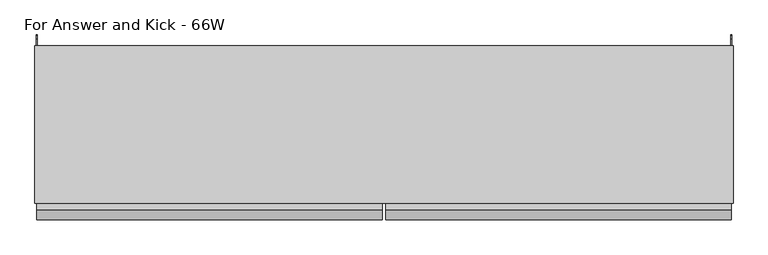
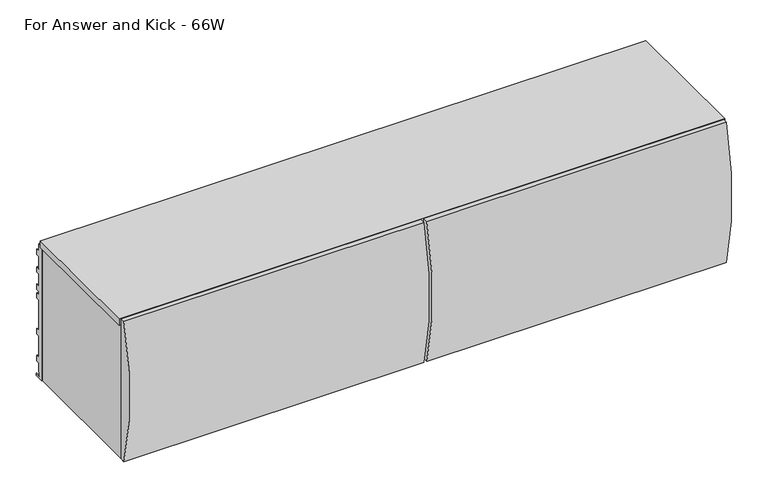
"""IFC4 building model written with IfcOpenShell, lengths in millimetres: furniture geometry, Steelcase - Universal Storage - Over the Case Bin - Radius Front : For Answer and Kick - 66W."""

from ifc_helpers import new_model, si_unit, point, frame, frame_2d, origin, place, context, project, spatial, polyline, circle_curve, trimmed, segment, composite_curve, outline, extrude, source, transform, mapped, element, save


def for_answer_and_kick_66w_54af6ecc(model_context):
    return source(origin(), model_context, "Body", "SweptSolid", [
        extrude(outline(polyline([(0.0, 1657.096), (15.428165, 1657.096), (15.428165, 1635.9725192), (24.6737648, 1635.9725192), (24.6737648, 1620.2499324), (17.7141651, 1620.2499324), (17.7141651, 1627.4034202), (15.428165, 1627.4034202), (13.3707653, 1623.8398995), (13.3707653, 1584.7332049), (24.4959651, 1584.7332049), (24.4959651, 1569.0106181), (17.7141651, 1569.0106181), (17.7141651, 1576.1734076), (15.428165, 1576.1734076), (13.3707653, 1572.6099624), (13.3707653, 1533.4938907), (24.6737648, 1533.4938907), (24.6737648, 1517.7713038), (17.5768, 1517.7713038), (17.5768, 1524.9340934), (15.4248855, 1524.9340934), (13.3349998, 1521.3219111), (13.3349998, 1508.4166423), (24.6737648, 1508.4166423), (24.6737648, 1492.6940555), (17.5768, 1492.6940555), (17.5768, 1499.856845), (15.4205129, 1499.856845), (13.3933344, 1496.3530466), (13.3933344, 1483.6530466), (15.428165, 1479.2893385), (15.428165, 1403.8551467), (24.6737648, 1403.8551467), (24.6737648, 1388.1325599), (17.7141651, 1388.1325599), (17.7141651, 1395.2982562), (15.428165, 1395.2982562), (13.3306079, 1391.6651808), (13.3306079, 1353.5651808), (15.428165, 1349.9321054), (15.428165, 1325.1000701), (24.6737648, 1325.1000701), (24.6737648, 1309.3774833), (17.7141651, 1309.3774833), (17.7141651, 1316.5328605), (15.428165, 1316.5328605), (15.428165, 1303.5355433), (13.2046809, 1299.684356), (13.2046809, 1282.9679719), (11.2879653, 1282.9679719), (11.2879653, 1271.9303504), (26.4009645, 1271.9303504), (26.4009645, 1265.428), (0.0, 1265.428), (0.0, 1657.096)])), frame((1670.8882, 0.0, 0.0), z_axis=(1.0, 0.0, 0.0), x_axis=(0.0, 1.0, 0.0)), (0.0, 0.0, 1.0), 1.905),
        extrude(outline(polyline([(0.0, 1657.096), (15.428165, 1657.096), (15.428165, 1635.9725192), (24.6737648, 1635.9725192), (24.6737648, 1620.2499324), (17.7141651, 1620.2499324), (17.7141651, 1627.4034202), (15.428165, 1627.4034202), (13.3707653, 1623.8398995), (13.3707653, 1584.7332049), (24.4959651, 1584.7332049), (24.4959651, 1569.0106181), (17.7141651, 1569.0106181), (17.7141651, 1576.1734076), (15.428165, 1576.1734076), (13.3707653, 1572.6099624), (13.3707653, 1533.4938907), (24.6737648, 1533.4938907), (24.6737648, 1517.7713038), (17.5768, 1517.7713038), (17.5768, 1524.9340934), (15.4248855, 1524.9340934), (13.3349998, 1521.3219111), (13.3349998, 1508.4166423), (24.6737648, 1508.4166423), (24.6737648, 1492.6940555), (17.5768, 1492.6940555), (17.5768, 1499.856845), (15.4205129, 1499.856845), (13.3933344, 1496.3530466), (13.3933344, 1483.6530466), (15.428165, 1479.2893385), (15.428165, 1403.8551467), (24.6737648, 1403.8551467), (24.6737648, 1388.1325599), (17.7141651, 1388.1325599), (17.7141651, 1395.2982562), (15.428165, 1395.2982562), (13.3306079, 1391.6651808), (13.3306079, 1353.5651808), (15.428165, 1349.9321054), (15.428165, 1325.1000701), (24.6737648, 1325.1000701), (24.6737648, 1309.3774833), (17.7141651, 1309.3774833), (17.7141651, 1316.5328605), (15.428165, 1316.5328605), (15.428165, 1303.5355433), (13.2046809, 1299.684356), (13.2046809, 1282.9679719), (11.2879653, 1282.9679719), (11.2879653, 1271.9303504), (26.4009645, 1271.9303504), (26.4009645, 1265.428), (0.0, 1265.428), (0.0, 1657.096)])), frame((3.6068, 0.0, 0.0), z_axis=(1.0, 0.0, 0.0), x_axis=(0.0, 1.0, 0.0)), (0.0, 0.0, 1.0), 1.905),
        extrude(outline(composite_curve([segment(polyline([(-393.0769518, 1677.2612846), (-379.476, 1677.2612846), (-379.476, 1266.8226746), (-393.0769518, 1266.8226746)]), True, "CONTINUOUS"), segment(trimmed(circle_curve(frame_2d((352.6331971, 1472.0419796)), 773.4329895), [point((-393.0769518, 1266.8226746))], [point((-393.0769518, 1677.2612846))], False, "CARTESIAN"), True, "CONTINUOUS")], self_intersect=False)), frame((842.772, 0.0, 0.0), z_axis=(1.0, 0.0, 0.0), x_axis=(0.0, 1.0, 0.0)), (0.0, 0.0, 1.0), 829.1983),
        extrude(outline(composite_curve([segment(polyline([(-393.0769518, 1677.2612846), (-379.476, 1677.2612846), (-379.476, 1266.8226746), (-393.0769518, 1266.8226746)]), True, "CONTINUOUS"), segment(trimmed(circle_curve(frame_2d((352.6331971, 1472.0419796)), 773.4329895), [point((-393.0769518, 1266.8226746))], [point((-393.0769518, 1677.2612846))], False, "CARTESIAN"), True, "CONTINUOUS")], self_intersect=False)), frame((4.4448587, 0.0, 0.0), z_axis=(1.0, 0.0, 0.0), x_axis=(0.0, 1.0, 0.0)), (0.0, 0.0, 1.0), 829.1831413),
        extrude(outline(polyline([(1676.4, -377.213238), (0.0, -377.213238), (0.0, 0.0), (1676.4, 0.0), (1676.4, -377.213238)])), frame((0.0, 0.0, 1657.35), z_axis=(0.0, 0.0, 1.0), x_axis=(1.0, 0.0, 0.0)), (0.0, 0.0, 1.0), 19.05),
        extrude(outline(polyline([(15.875, -377.213238), (5.5118, -377.213238), (5.5118, 0.0), (15.875, 0.0), (15.875, -377.213238)])), frame((0.0, 0.0, 1265.428), z_axis=(0.0, 0.0, 1.0), x_axis=(1.0, 0.0, 0.0)), (0.0, 0.0, 1.0), 391.6679457),
        extrude(outline(polyline([(1675.2568665, -377.213238), (1660.525, -377.213238), (1660.525, 0.0), (1675.2568665, 0.0), (1675.2568665, -377.213238)])), frame((0.0, 0.0, 1265.428), z_axis=(0.0, 0.0, 1.0), x_axis=(1.0, 0.0, 0.0)), (0.0, 0.0, 1.0), 391.6679457),
        extrude(outline(polyline([(-35.4584098, 1372.819257), (-27.0763996, 1372.819257), (-27.0763996, 1360.1191601), (-33.4264117, 1360.1191601), (-33.4264117, 1323.1622589), (-27.0763996, 1323.1622589), (-27.0763996, 1265.428), (-35.4584098, 1265.428), (-35.4584098, 1293.054213), (-46.1263996, 1293.054213), (-46.1263996, 1268.1875622), (-59.9694137, 1268.1875622), (-59.9694137, 1294.8575912), (-332.8542818, 1294.8575912), (-332.8542818, 1268.1875622), (-377.3042823, 1268.1875622), (-377.3042823, 1310.7072052), (-35.4584098, 1310.7072052), (-35.4584098, 1372.819257)])), frame((15.875, 0.0, 0.0), z_axis=(1.0, 0.0, 0.0), x_axis=(0.0, 1.0, 0.0)), (0.0, 0.0, 1.0), 1644.65),
    ])


if __name__ == "__main__":
    model = new_model("IFC4")
    model_context = context("Model", 3, world=origin())
    ifc_project = project(units=[si_unit("LENGTHUNIT", "METRE", prefix="MILLI")], contexts=[model_context])
    site = spatial("IfcSite", under=ifc_project)
    building = spatial("IfcBuilding", under=site)
    placement = place(None, origin())
    for_answer_and_kick_66w_shape = for_answer_and_kick_66w_54af6ecc(model_context)
    element("IfcFurniture", 1, ObjectType="Steelcase - Universal Storage - Over the Case Bin - Radius Front : For Answer and Kick - 66W", at=placement, inside=building, context=model_context, shape_type="MappedRepresentation", body=[
        mapped(for_answer_and_kick_66w_shape, transform((0.0, 0.0, 0.0), x_axis=(1.0, 0.0, 0.0), y_axis=(0.0, 1.0, 0.0), z_axis=(0.0, 0.0, 1.0))),
    ])
    save(model, "model.ifc")
